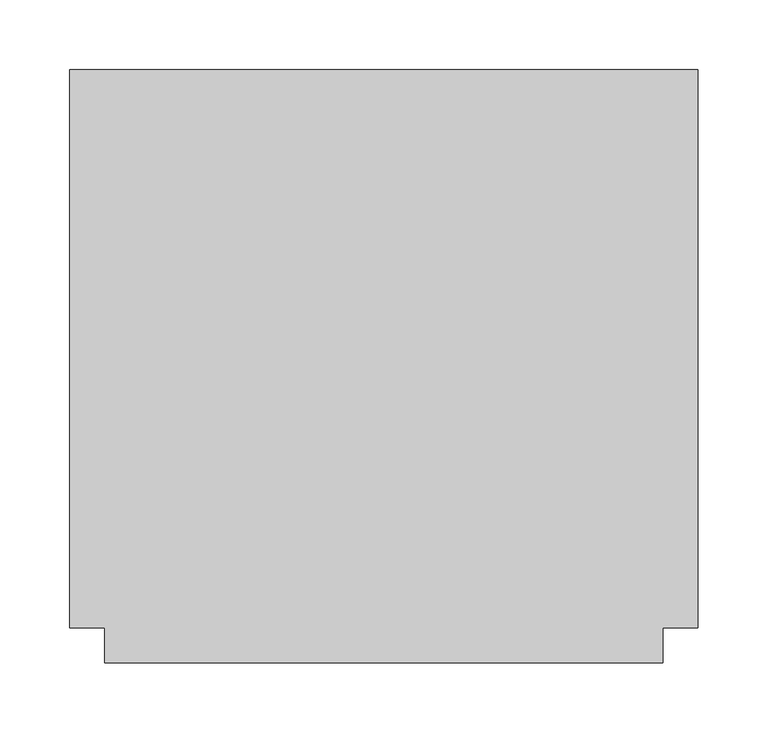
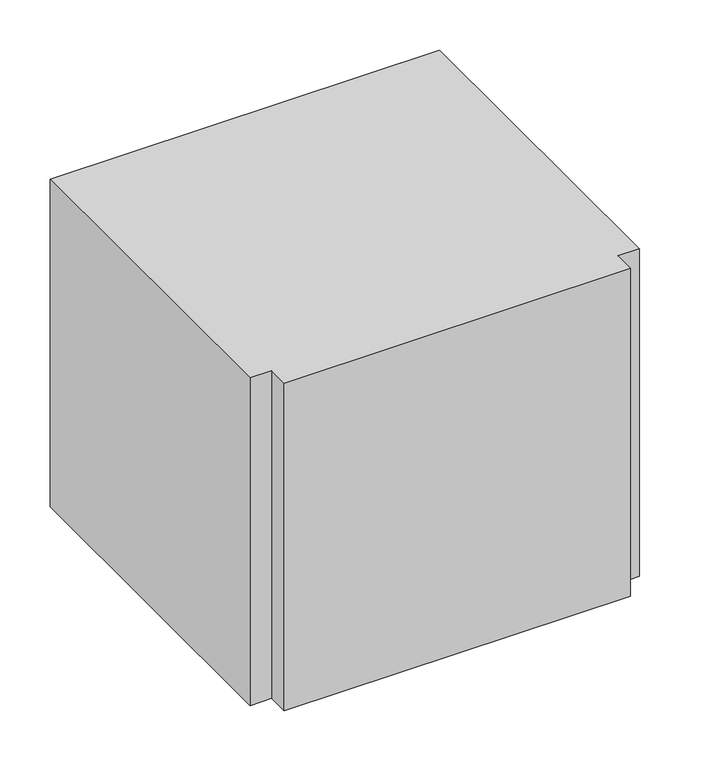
"""IFC4 building model written with IfcOpenShell, lengths in millimetres: duct fitting geometry, M_T retangular : Padrão."""

from ifc_helpers import new_model, si_unit, frame, origin, place, context, project, spatial, polyline, outline, extrude, source, transform, mapped, element, save


def duct_fitting_35186f20(model_context):
    return source(origin(), model_context, "Body", "SweptSolid", [
        extrude(outline(polyline([(-225.0, -200.0), (-225.0, 200.0), (225.0, 200.0), (225.0, -200.0), (200.0, -200.0), (200.0, -225.0), (-200.0, -225.0), (-200.0, -200.0), (-225.0, -200.0)])), frame((0.0, 0.0, -200.0), z_axis=(0.0, 0.0, 1.0), x_axis=(1.0, 0.0, 0.0)), (0.0, 0.0, 1.0), 400.0),
    ])


if __name__ == "__main__":
    model = new_model("IFC4")
    model_context = context("Model", 3, world=origin())
    ifc_project = project(units=[si_unit("LENGTHUNIT", "METRE", prefix="MILLI")], contexts=[model_context])
    site = spatial("IfcSite", under=ifc_project)
    building = spatial("IfcBuilding", under=site)
    placement = place(None, origin())
    duct_fitting_shape = duct_fitting_35186f20(model_context)
    element("IfcDuctFitting", 1, ObjectType="M_T retangular : Padrão", at=placement, inside=building, context=model_context, shape_type="MappedRepresentation", body=[
        mapped(duct_fitting_shape, transform((0.0, 0.0, 0.0), x_axis=(1.0, 0.0, 0.0), y_axis=(0.0, 1.0, 0.0), z_axis=(0.0, 0.0, 1.0))),
    ])
    save(model, "model.ifc")
